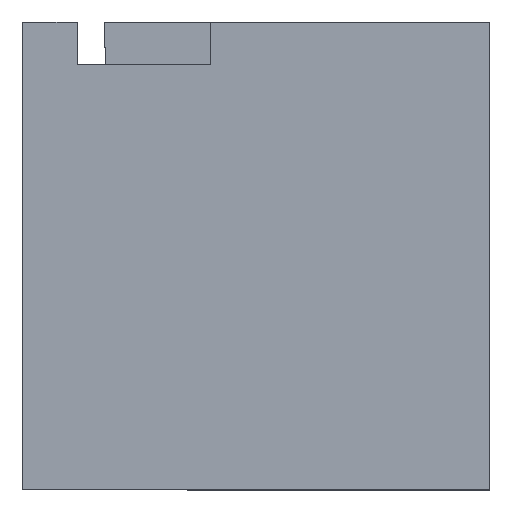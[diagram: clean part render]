
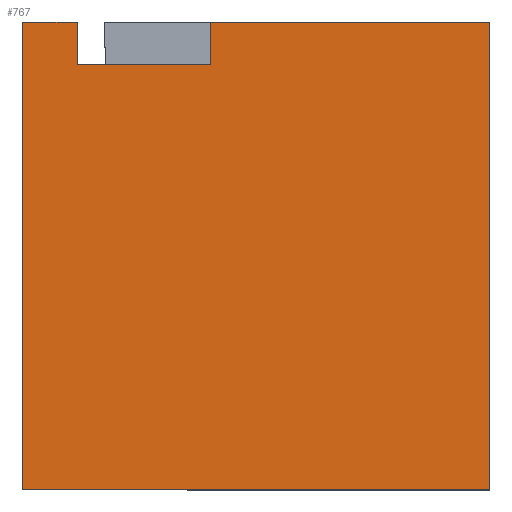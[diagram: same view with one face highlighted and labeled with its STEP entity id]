
A CAD part, top view. The second image highlights one B-rep face of the part: STEP entity #767.
In plain terms, the highlighted planar face has unit normal (0, 0, 1).
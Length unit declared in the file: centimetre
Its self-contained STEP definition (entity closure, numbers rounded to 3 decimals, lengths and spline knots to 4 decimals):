
#31 = EDGE_CURVE ( 'NONE', #933, #61, #138, .T. ) ;
#37 = CARTESIAN_POINT ( 'NONE',  ( 0., 1000., 1000. ) ) ;
#58 = VERTEX_POINT ( 'NONE', #586 ) ;
#61 = VERTEX_POINT ( 'NONE', #881 ) ;
#68 = EDGE_CURVE ( 'NONE', #61, #571, #414, .T. ) ;
#80 = ORIENTED_EDGE ( 'NONE', *, *, #210, .T. ) ;
#82 = LINE ( 'NONE', #393, #513 ) ;
#89 = DIRECTION ( 'NONE',  ( -1., 0., 0. ) ) ;
#135 = CARTESIAN_POINT ( 'NONE',  ( 0., 0., 1000. ) ) ;
#138 = LINE ( 'NONE', #956, #250 ) ;
#170 = LINE ( 'NONE', #37, #459 ) ;
#192 = EDGE_CURVE ( 'NONE', #933, #739, #471, .T. ) ;
#194 = DIRECTION ( 'NONE',  ( 1., 0., 0. ) ) ;
#210 = EDGE_CURVE ( 'NONE', #432, #708, #170, .T. ) ;
#237 = CARTESIAN_POINT ( 'NONE',  ( 0., 0., 1000. ) ) ;
#250 = VECTOR ( 'NONE', #492, 100. ) ;
#358 = ORIENTED_EDGE ( 'NONE', *, *, #808, .F. ) ;
#361 = CARTESIAN_POINT ( 'NONE',  ( 0., 0., 1000. ) ) ;
#363 = EDGE_LOOP ( 'NONE', ( #455, #662, #491, #748, #712, #80, #358, #375 ) ) ;
#366 = FACE_OUTER_BOUND ( 'NONE', #363, .T. ) ;
#375 = ORIENTED_EDGE ( 'NONE', *, *, #192, .F. ) ;
#378 = CARTESIAN_POINT ( 'NONE',  ( 1000., 1000., 1000. ) ) ;
#380 = EDGE_CURVE ( 'NONE', #571, #887, #756, .T. ) ;
#389 = VECTOR ( 'NONE', #727, 100. ) ;
#393 = CARTESIAN_POINT ( 'NONE',  ( 1000., 1000., 1000. ) ) ;
#398 = CARTESIAN_POINT ( 'NONE',  ( 117.6372, 908.5624, 1000. ) ) ;
#414 = LINE ( 'NONE', #845, #689 ) ;
#430 = DIRECTION ( 'NONE',  ( -1., 0., 0. ) ) ;
#432 = VERTEX_POINT ( 'NONE', #378 ) ;
#455 = ORIENTED_EDGE ( 'NONE', *, *, #31, .T. ) ;
#459 = VECTOR ( 'NONE', #430, 100. ) ;
#471 = LINE ( 'NONE', #685, #642 ) ;
#486 = AXIS2_PLACEMENT_3D ( 'NONE', #135, #863, #194 ) ;
#491 = ORIENTED_EDGE ( 'NONE', *, *, #380, .T. ) ;
#492 = DIRECTION ( 'NONE',  ( 0., 1., 0. ) ) ;
#513 = VECTOR ( 'NONE', #691, 100. ) ;
#560 = CARTESIAN_POINT ( 'NONE',  ( 0., 1000., 1000. ) ) ;
#571 = VERTEX_POINT ( 'NONE', #560 ) ;
#586 = CARTESIAN_POINT ( 'NONE',  ( 1000., 0., 1000. ) ) ;
#599 = LINE ( 'NONE', #745, #750 ) ;
#642 = VECTOR ( 'NONE', #841, 100. ) ;
#662 = ORIENTED_EDGE ( 'NONE', *, *, #68, .T. ) ;
#683 = EDGE_CURVE ( 'NONE', #887, #58, #790, .T. ) ;
#685 = CARTESIAN_POINT ( 'NONE',  ( 117.6372, 908.5624, 1000. ) ) ;
#689 = VECTOR ( 'NONE', #89, 100. ) ;
#691 = DIRECTION ( 'NONE',  ( 0., 1., 0. ) ) ;
#708 = VERTEX_POINT ( 'NONE', #721 ) ;
#712 = ORIENTED_EDGE ( 'NONE', *, *, #897, .T. ) ;
#721 = CARTESIAN_POINT ( 'NONE',  ( 402.0983, 1000., 1000. ) ) ;
#727 = DIRECTION ( 'NONE',  ( 1., 0., 0. ) ) ;
#737 = CARTESIAN_POINT ( 'NONE',  ( 402.0983, 908.5624, 1000. ) ) ;
#739 = VERTEX_POINT ( 'NONE', #737 ) ;
#745 = CARTESIAN_POINT ( 'NONE',  ( 402.0983, 908.5624, 1000. ) ) ;
#748 = ORIENTED_EDGE ( 'NONE', *, *, #683, .T. ) ;
#750 = VECTOR ( 'NONE', #892, 100. ) ;
#756 = LINE ( 'NONE', #816, #777 ) ;
#767 = ADVANCED_FACE ( 'NONE', ( #366 ), #935, .T. ) ;
#777 = VECTOR ( 'NONE', #898, 100. ) ;
#790 = LINE ( 'NONE', #361, #389 ) ;
#808 = EDGE_CURVE ( 'NONE', #739, #708, #599, .T. ) ;
#816 = CARTESIAN_POINT ( 'NONE',  ( 0., 1000., 1000. ) ) ;
#841 = DIRECTION ( 'NONE',  ( 1., 0., 0. ) ) ;
#845 = CARTESIAN_POINT ( 'NONE',  ( 0., 1000., 1000. ) ) ;
#863 = DIRECTION ( 'NONE',  ( 0., 0., 1. ) ) ;
#881 = CARTESIAN_POINT ( 'NONE',  ( 117.6372, 1000., 1000. ) ) ;
#887 = VERTEX_POINT ( 'NONE', #237 ) ;
#892 = DIRECTION ( 'NONE',  ( 0., 1., 0. ) ) ;
#897 = EDGE_CURVE ( 'NONE', #58, #432, #82, .T. ) ;
#898 = DIRECTION ( 'NONE',  ( 0., -1., 0. ) ) ;
#933 = VERTEX_POINT ( 'NONE', #398 ) ;
#935 = PLANE ( 'NONE',  #486 ) ;
#956 = CARTESIAN_POINT ( 'NONE',  ( 117.6372, 908.5624, 1000. ) ) ;
